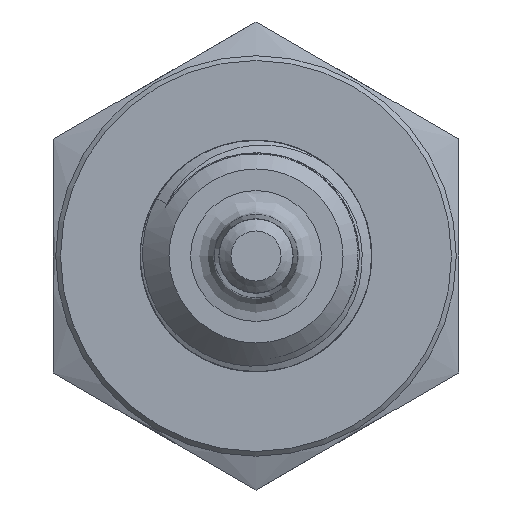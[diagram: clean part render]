
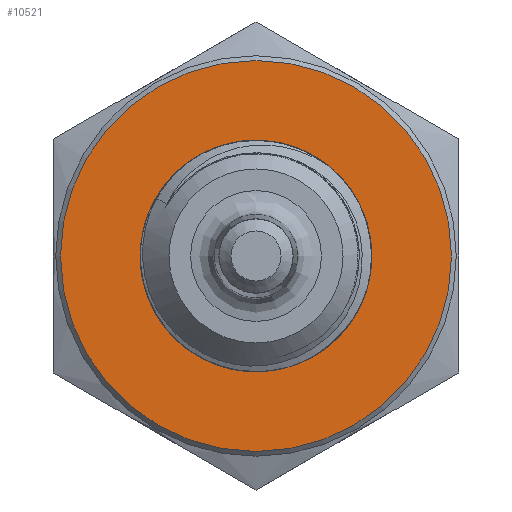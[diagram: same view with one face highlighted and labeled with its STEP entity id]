
A CAD part, front view. The second image highlights one B-rep face of the part: STEP entity #10521.
In plain terms, the highlighted planar face has unit normal (0, -1, 0) as drawn and (0, 0, -1) by its records, which use the part's own axes.
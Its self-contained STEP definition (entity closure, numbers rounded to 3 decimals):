
#10490=CARTESIAN_POINT('',(-8.2,0.,0.0));
#10491=VERTEX_POINT('',#10490);
#10492=CARTESIAN_POINT('',(0.0,0.0,0.0));
#10493=DIRECTION('',(0.0,0.0,1.0));
#10494=DIRECTION('',(1.0,0.0,0.0));
#10495=AXIS2_PLACEMENT_3D('',#10492,#10493,#10494);
#10496=CIRCLE('',#10495,8.2);
#10497=EDGE_CURVE('',#10491,#10491,#10496,.T.);
#10502=CARTESIAN_POINT('',(0.,0.,0.0));
#10503=DIRECTION('',(0.0,0.0,1.0));
#10504=DIRECTION('',(1.0,0.0,0.0));
#10505=AXIS2_PLACEMENT_3D('',#10502,#10503,#10504);
#10506=PLANE('',#10505);
#10507=ORIENTED_EDGE('',*,*,#10497,.F.);
#10508=EDGE_LOOP('',(#10507));
#10509=FACE_OUTER_BOUND('',#10508,.T.);
#10510=CARTESIAN_POINT('',(4.65,0.,0.0));
#10511=VERTEX_POINT('',#10510);
#10512=CARTESIAN_POINT('',(0.0,0.0,0.0));
#10513=DIRECTION('',(0.0,0.0,-1.0));
#10514=DIRECTION('',(-1.0,0.0,0.0));
#10515=AXIS2_PLACEMENT_3D('',#10512,#10513,#10514);
#10516=CIRCLE('',#10515,4.65);
#10517=EDGE_CURVE('',#10511,#10511,#10516,.T.);
#10518=ORIENTED_EDGE('',*,*,#10517,.F.);
#10519=EDGE_LOOP('',(#10518));
#10520=FACE_BOUND('',#10519,.T.);
#10521=ADVANCED_FACE('',(#10509,#10520),#10506,.F.);
